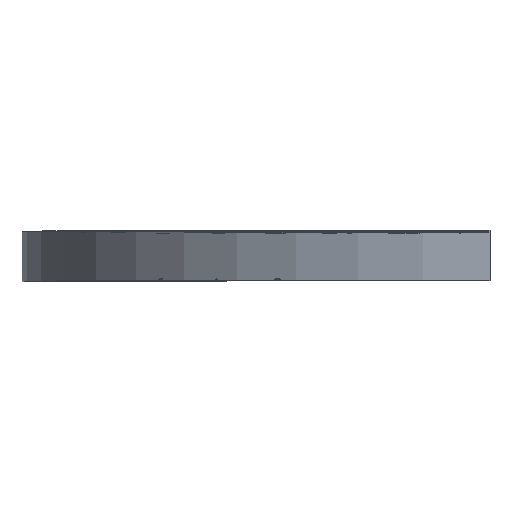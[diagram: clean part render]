
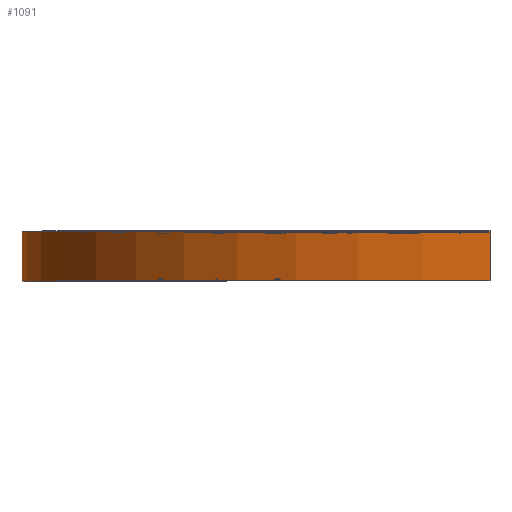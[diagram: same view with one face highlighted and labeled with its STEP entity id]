
A CAD part, top view. The second image highlights one B-rep face of the part: STEP entity #1091.
In plain terms, the highlighted cylindrical face has radius 748.5 mm (diameter 1497 mm), a partial arc.
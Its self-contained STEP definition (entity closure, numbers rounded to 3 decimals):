
#23 = FACE_OUTER_BOUND ( 'NONE', #731, .T. ) ;
#69 = CYLINDRICAL_SURFACE ( 'NONE', #144, 748.5 ) ;
#144 = AXIS2_PLACEMENT_3D ( 'NONE', #1398, #263, #147 ) ;
#147 = DIRECTION ( 'NONE',  ( 0., 0., 1. ) ) ;
#156 = CARTESIAN_POINT ( 'NONE',  ( -23.5, 79.5, 0. ) ) ;
#201 = CARTESIAN_POINT ( 'NONE',  ( 725., 79.5, 748.5 ) ) ;
#223 = ORIENTED_EDGE ( 'NONE', *, *, #1496, .T. ) ;
#254 = VECTOR ( 'NONE', #1102, 1000. ) ;
#258 = VERTEX_POINT ( 'NONE', #1180 ) ;
#263 = DIRECTION ( 'NONE',  ( 0., 1., 0. ) ) ;
#335 = CARTESIAN_POINT ( 'NONE',  ( 725., 79.5, 748.5 ) ) ;
#341 = DIRECTION ( 'NONE',  ( 0., -1., 0. ) ) ;
#346 = LINE ( 'NONE', #335, #254 ) ;
#350 = DIRECTION ( 'NONE',  ( -1., 0., 0. ) ) ;
#451 = DIRECTION ( 'NONE',  ( 0., 1., 0. ) ) ;
#515 = ORIENTED_EDGE ( 'NONE', *, *, #978, .F. ) ;
#562 = EDGE_CURVE ( 'NONE', #682, #258, #772, .T. ) ;
#580 = DIRECTION ( 'NONE',  ( -1., 0., 0. ) ) ;
#586 = AXIS2_PLACEMENT_3D ( 'NONE', #984, #1606, #350 ) ;
#682 = VERTEX_POINT ( 'NONE', #1218 ) ;
#687 = VERTEX_POINT ( 'NONE', #201 ) ;
#708 = CARTESIAN_POINT ( 'NONE',  ( -23.5, 79.5, 0. ) ) ;
#731 = EDGE_LOOP ( 'NONE', ( #1179, #515, #1598, #223 ) ) ;
#772 = CIRCLE ( 'NONE', #962, 748.5 ) ;
#942 = CARTESIAN_POINT ( 'NONE',  ( 725., 0.5, 0. ) ) ;
#962 = AXIS2_PLACEMENT_3D ( 'NONE', #942, #451, #580 ) ;
#978 = EDGE_CURVE ( 'NONE', #687, #258, #346, .T. ) ;
#984 = CARTESIAN_POINT ( 'NONE',  ( 725., 79.5, 0. ) ) ;
#1075 = CIRCLE ( 'NONE', #586, 748.5 ) ;
#1091 = ADVANCED_FACE ( 'NONE', ( #23 ), #69, .T. ) ;
#1102 = DIRECTION ( 'NONE',  ( 0., -1., 0. ) ) ;
#1128 = VECTOR ( 'NONE', #341, 1000. ) ;
#1179 = ORIENTED_EDGE ( 'NONE', *, *, #562, .T. ) ;
#1180 = CARTESIAN_POINT ( 'NONE',  ( 725., 0.5, 748.5 ) ) ;
#1218 = CARTESIAN_POINT ( 'NONE',  ( -23.5, 0.5, 0. ) ) ;
#1323 = VERTEX_POINT ( 'NONE', #156 ) ;
#1398 = CARTESIAN_POINT ( 'NONE',  ( 725., 0., 0. ) ) ;
#1466 = LINE ( 'NONE', #708, #1128 ) ;
#1496 = EDGE_CURVE ( 'NONE', #1323, #682, #1466, .T. ) ;
#1548 = EDGE_CURVE ( 'NONE', #1323, #687, #1075, .T. ) ;
#1598 = ORIENTED_EDGE ( 'NONE', *, *, #1548, .F. ) ;
#1606 = DIRECTION ( 'NONE',  ( 0., 1., 0. ) ) ;
